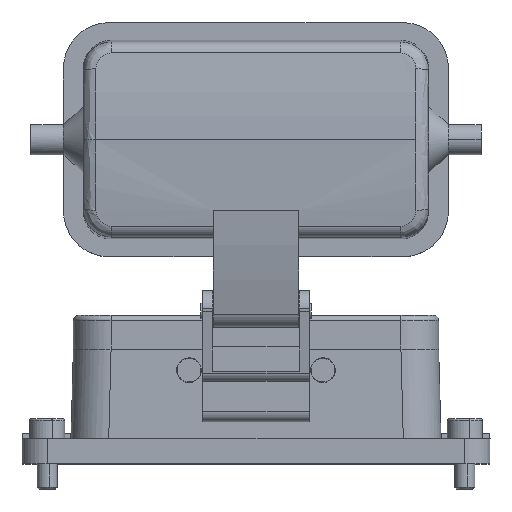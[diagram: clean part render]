
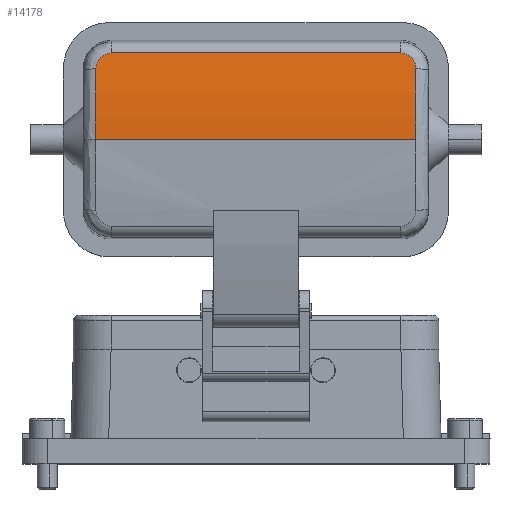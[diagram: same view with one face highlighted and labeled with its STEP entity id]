
A CAD part, top view. The second image highlights one B-rep face of the part: STEP entity #14178.
In plain terms, the highlighted cylindrical face has radius 120 mm (diameter 240 mm), a partial arc.
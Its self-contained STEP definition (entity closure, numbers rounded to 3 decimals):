
#34 = VERTEX_POINT ( 'NONE', #13344 ) ;
#54 = VERTEX_POINT ( 'NONE', #13363 ) ;
#55 = VERTEX_POINT ( 'NONE', #13364 ) ;
#507 = VERTEX_POINT ( 'NONE', #13589 ) ;
#511 = VERTEX_POINT ( 'NONE', #13593 ) ;
#520 = VERTEX_POINT ( 'NONE', #13602 ) ;
#1590 = ORIENTED_EDGE ( 'NONE', *, *, #13874, .F. ) ;
#1591 = ORIENTED_EDGE ( 'NONE', *, *, #1822, .T. ) ;
#1592 = ORIENTED_EDGE ( 'NONE', *, *, #1819, .F. ) ;
#1593 = ORIENTED_EDGE ( 'NONE', *, *, #1841, .F. ) ;
#1594 = ORIENTED_EDGE ( 'NONE', *, *, #1840, .F. ) ;
#1595 = ORIENTED_EDGE ( 'NONE', *, *, #13862, .T. ) ;
#1819 = EDGE_CURVE ( 'NONE', #507, #511, #5214, .T. ) ;
#1822 = EDGE_CURVE ( 'NONE', #34, #511, #3660, .T. ) ;
#1840 = EDGE_CURVE ( 'NONE', #55, #520, #5130, .T. ) ;
#1841 = EDGE_CURVE ( 'NONE', #520, #507, #3674, .T. ) ;
#2751 = AXIS2_PLACEMENT_3D ( 'NONE', #4426, #4427, #4428 ) ;
#3660 = CIRCLE ( 'NONE', #2751, 120. ) ;
#3674 = LINE ( 'NONE', #4516, #3675 ) ;
#3675 = VECTOR ( 'NONE', #4526, 1000. ) ;
#4374 = CARTESIAN_POINT ( 'NONE',  ( 28.787, 63.021, 47.18 ) ) ;
#4375 = CARTESIAN_POINT ( 'NONE',  ( 29.168, 63.021, 47.18 ) ) ;
#4380 = CARTESIAN_POINT ( 'NONE',  ( 29.745, 62.869, 47.203 ) ) ;
#4381 = CARTESIAN_POINT ( 'NONE',  ( 30.253, 62.56, 47.246 ) ) ;
#4382 = CARTESIAN_POINT ( 'NONE',  ( 30.674, 62.248, 47.29 ) ) ;
#4383 = CARTESIAN_POINT ( 'NONE',  ( 30.908, 62.02, 47.321 ) ) ;
#4384 = CARTESIAN_POINT ( 'NONE',  ( 31.416, 61.373, 47.408 ) ) ;
#4385 = CARTESIAN_POINT ( 'NONE',  ( 31.642, 60.916, 47.468 ) ) ;
#4386 = CARTESIAN_POINT ( 'NONE',  ( 31.77, 60.274, 47.547 ) ) ;
#4387 = CARTESIAN_POINT ( 'NONE',  ( 31.787, 60.108, 47.567 ) ) ;
#4388 = CARTESIAN_POINT ( 'NONE',  ( 31.787, 59.941, 47.587 ) ) ;
#4426 = CARTESIAN_POINT ( 'NONE',  ( 31.787, 45.788, -71.576 ) ) ;
#4427 = DIRECTION ( 'NONE',  ( -1., 0., 0. ) ) ;
#4428 = DIRECTION ( 'NONE',  ( 0., 0., 1. ) ) ;
#4488 = CARTESIAN_POINT ( 'NONE',  ( -31.813, 60.351, 47.538 ) ) ;
#4489 = CARTESIAN_POINT ( 'NONE',  ( -31.813, 59.941, 47.587 ) ) ;
#4516 = CARTESIAN_POINT ( 'NONE',  ( -34.313, 63.021, 47.18 ) ) ;
#4517 = CARTESIAN_POINT ( 'NONE',  ( -31.709, 60.756, 47.487 ) ) ;
#4518 = CARTESIAN_POINT ( 'NONE',  ( -31.438, 61.323, 47.414 ) ) ;
#4519 = CARTESIAN_POINT ( 'NONE',  ( -31.168, 61.768, 47.356 ) ) ;
#4520 = CARTESIAN_POINT ( 'NONE',  ( -30.807, 62.146, 47.304 ) ) ;
#4521 = CARTESIAN_POINT ( 'NONE',  ( -30.195, 62.646, 47.235 ) ) ;
#4522 = CARTESIAN_POINT ( 'NONE',  ( -29.741, 62.883, 47.2 ) ) ;
#4523 = CARTESIAN_POINT ( 'NONE',  ( -29.114, 63.006, 47.183 ) ) ;
#4524 = CARTESIAN_POINT ( 'NONE',  ( -28.964, 63.021, 47.18 ) ) ;
#4525 = CARTESIAN_POINT ( 'NONE',  ( -28.813, 63.021, 47.18 ) ) ;
#4526 = DIRECTION ( 'NONE',  ( 1., 0., 0. ) ) ;
#5130 = B_SPLINE_CURVE_WITH_KNOTS ( 'NONE', 3,
 ( #4489, #4488, #4517, #4518, #4519, #4520, #4521, #4522, #4523, #4524, #4525 ),
 .UNSPECIFIED., .F., .F.,
 ( 4, 2, 1, 2, 2, 4 ),
 ( 0., 0.263, 0.398, 0.589, 0.904, 1. ),
 .UNSPECIFIED. ) ;
#5214 = B_SPLINE_CURVE_WITH_KNOTS ( 'NONE', 3,
 ( #4374, #4375, #4380, #4381, #4382, #4383, #4384, #4385, #4386, #4387, #4388 ),
 .UNSPECIFIED., .F., .F.,
 ( 4, 1, 2, 2, 2, 4 ),
 ( 0., 0.244, 0.376, 0.579, 0.893, 1. ),
 .UNSPECIFIED. ) ;
#6330 = AXIS2_PLACEMENT_3D ( 'NONE', #7310, #7311, #7312 ) ;
#6693 = EDGE_LOOP ( 'NONE', ( #1590, #1591, #1592, #1593, #1594, #1595 ) ) ;
#6870 = CIRCLE ( 'NONE', #6330, 120. ) ;
#6884 = LINE ( 'NONE', #7370, #6885 ) ;
#6885 = VECTOR ( 'NONE', #7371, 1000. ) ;
#7310 = CARTESIAN_POINT ( 'NONE',  ( -31.813, 45.788, -71.576 ) ) ;
#7311 = DIRECTION ( 'NONE',  ( 1., 0., 0. ) ) ;
#7312 = DIRECTION ( 'NONE',  ( 0., 0., 1. ) ) ;
#7370 = CARTESIAN_POINT ( 'NONE',  ( 34.287, 45.788, 48.424 ) ) ;
#7371 = DIRECTION ( 'NONE',  ( -1., 0., 0. ) ) ;
#11275 = FACE_OUTER_BOUND ( 'NONE', #6693, .T. ) ;
#11283 = CYLINDRICAL_SURFACE ( 'NONE', #11607, 120. ) ;
#11607 = AXIS2_PLACEMENT_3D ( 'NONE', #12440, #12441, #12449 ) ;
#12440 = CARTESIAN_POINT ( 'NONE',  ( 34.287, 45.788, -71.576 ) ) ;
#12441 = DIRECTION ( 'NONE',  ( -1., 0., 0. ) ) ;
#12449 = DIRECTION ( 'NONE',  ( 0., 0., 1. ) ) ;
#13344 = CARTESIAN_POINT ( 'NONE',  ( 31.787, 45.788, 48.424 ) ) ;
#13363 = CARTESIAN_POINT ( 'NONE',  ( -31.813, 45.788, 48.424 ) ) ;
#13364 = CARTESIAN_POINT ( 'NONE',  ( -31.813, 59.941, 47.587 ) ) ;
#13589 = CARTESIAN_POINT ( 'NONE',  ( 28.787, 63.021, 47.18 ) ) ;
#13593 = CARTESIAN_POINT ( 'NONE',  ( 31.787, 59.941, 47.587 ) ) ;
#13602 = CARTESIAN_POINT ( 'NONE',  ( -28.813, 63.021, 47.18 ) ) ;
#13862 = EDGE_CURVE ( 'NONE', #55, #54, #6870, .T. ) ;
#13874 = EDGE_CURVE ( 'NONE', #34, #54, #6884, .T. ) ;
#14178 = ADVANCED_FACE ( 'F149', ( #11275 ), #11283, .T. ) ;
